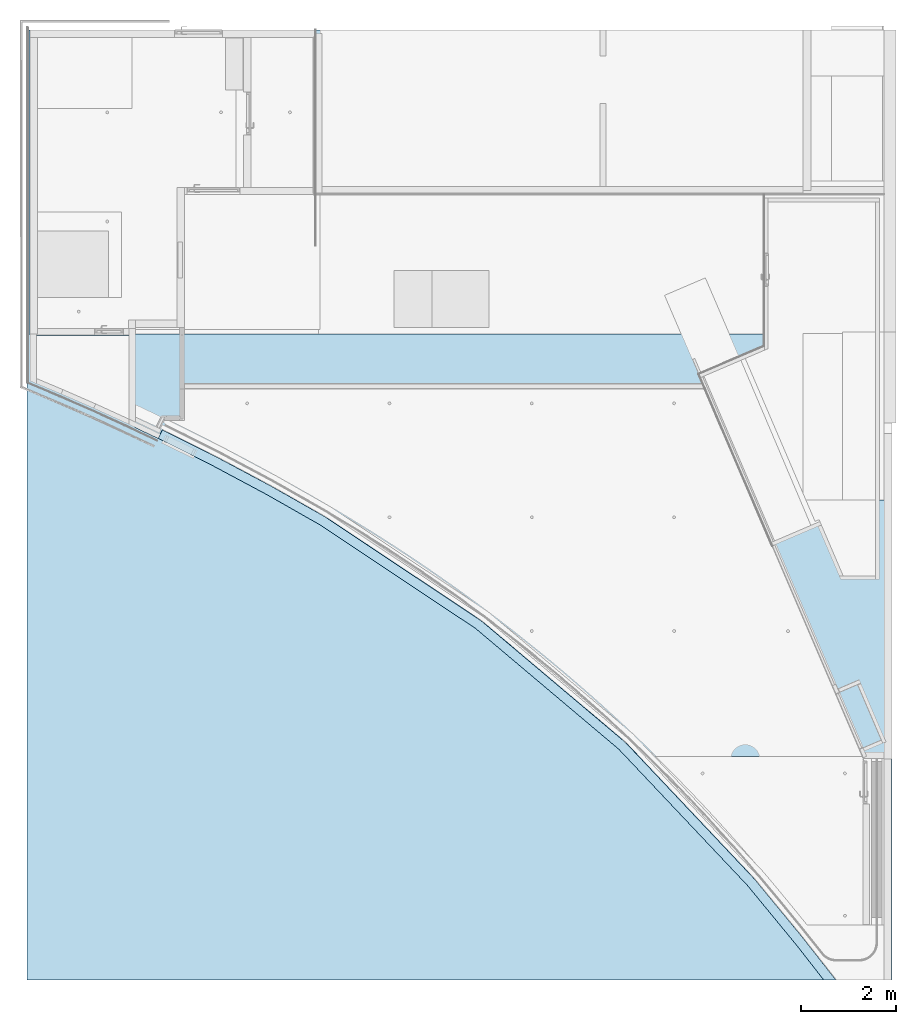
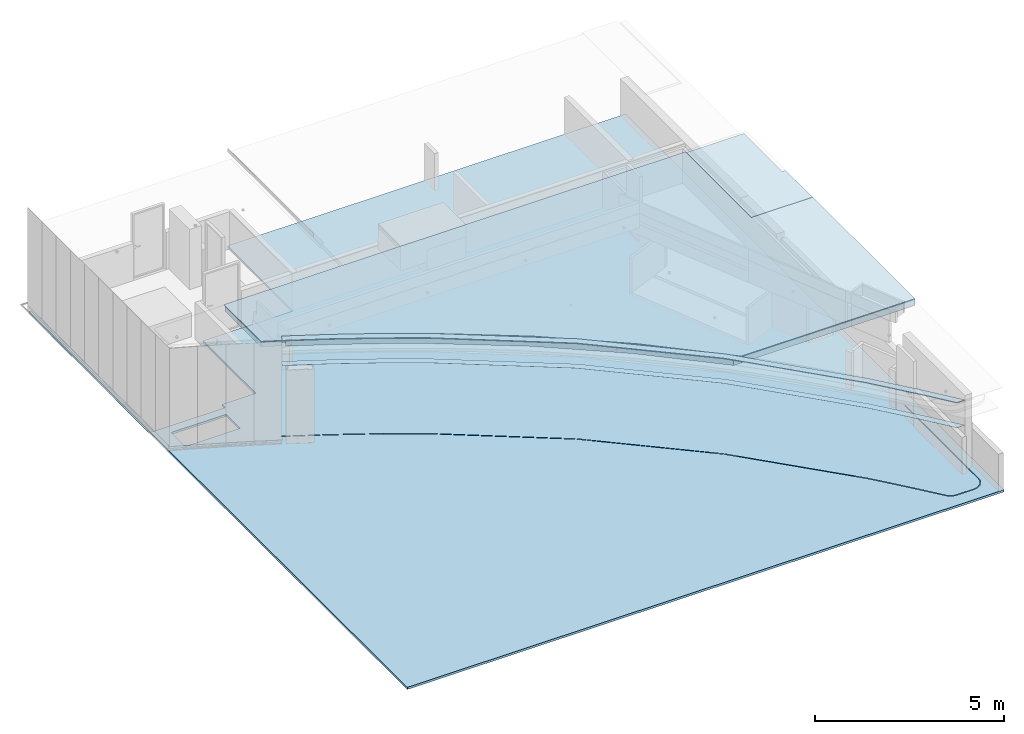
# One storey, part 6 of 16: 6 slabs.
"""IFC2X3 building model written with IfcOpenShell, lengths in millimetres."""

from ifc_helpers import new_model, entity, si_unit, converted_unit, derived_unit, direction, frame, origin_with_axes, place, context, subcontext, project, spatial, faceted_brep, material, layer, layer_set, type_object, element, save


model = new_model("IFC2X3")

# Units and contexts
model_context = context("Model", 3, precision=0.01, world=frame((0.0, 4.29681676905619e-09, 0.0)), true_north=direction((4.01073788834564e-13, 1.0)))
plan_context = context("Plan", 3, precision=0.01, world=frame((0.0, 4.29681676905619e-09, 0.0)), true_north=direction((4.01073788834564e-13, 1.0)))
body_context = subcontext(model_context, "Body", "Model", "MODEL_VIEW")
ifc_project = project(units=[converted_unit("PLANEANGLEUNIT", "DEGREE", entity("IfcPositiveLengthMeasure", 0.0174532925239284), si_unit("PLANEANGLEUNIT", "RADIAN"), dimensions=[0, 0, 0, 0, 0, 0, 0]), si_unit("AREAUNIT", "SQUARE_METRE"), si_unit("LENGTHUNIT", "METRE", prefix="MILLI"), si_unit("MASSUNIT", "GRAM", prefix="KILO"), si_unit("POWERUNIT", "WATT"), si_unit("PRESSUREUNIT", "PASCAL"), si_unit("FORCEUNIT", "NEWTON", prefix="KILO"), si_unit("ELECTRICCURRENTUNIT", "AMPERE"), si_unit("THERMODYNAMICTEMPERATUREUNIT", "DEGREE_CELSIUS"), si_unit("TIMEUNIT", "SECOND"), si_unit("VOLUMEUNIT", "CUBIC_METRE"), derived_unit("LINEARVELOCITYUNIT", [(si_unit("LENGTHUNIT", "METRE"), 1), (si_unit("TIMEUNIT", "SECOND"), -1)]), derived_unit("VOLUMETRICFLOWRATEUNIT", [(si_unit("VOLUMEUNIT", "CUBIC_METRE"), 1), (si_unit("TIMEUNIT", "SECOND"), -1)]), derived_unit("THERMALTRANSMITTANCEUNIT", [(si_unit("POWERUNIT", "WATT"), 1), (si_unit("THERMODYNAMICTEMPERATUREUNIT", "KELVIN"), -1), (si_unit("AREAUNIT", "SQUARE_METRE"), -1)])], contexts=[model_context, plan_context])

# Site, building, storey
site_placement = place(None, origin_with_axes())
site = spatial("IfcSite", under=ifc_project, at=site_placement, Name="ENGM", CompositionType="ELEMENT")
building_placement = place(site_placement, origin_with_axes())
building = spatial("IfcBuilding", under=site, at=building_placement, Name="TS", CompositionType="ELEMENT")
storey_placement = place(building_placement, frame((0.0, 0.0, 204000.0), z_axis=(0.0, 0.0, 1.0), x_axis=(1.0, 0.0, 0.0)))
storey = spatial("IfcBuildingStorey", under=building, at=storey_placement, Name="Nivå D", CompositionType="ELEMENT", Elevation=204000.0)

# Slabs
ifc_material_1 = material(Name="T2_X-finer")
ifc_layer_1 = layer(ifc_material_1, 20.0)
ifc_layer_set_1 = layer_set([ifc_layer_1], Name="Floor:A254 - Kryssfiner - 20 mm")
slab_type_1 = type_object("IfcSlabType", Name="Floor:A254 - Kryssfiner - 20 mm", PredefinedType="FLOOR", material=ifc_layer_set_1)
slab_1_placement = place(storey_placement, frame((516122.0, 405555.0, 3300.0), z_axis=(0.0, 0.0, 1.0), x_axis=(1.0, 0.0, 0.0)))
element("IfcSlab", 1, at=slab_1_placement, inside=storey, type_object=slab_type_1, Name="Floor:A254 - Kryssfiner - 20 mm:3", ObjectType="Floor:A254 - Kryssfiner - 20 mm", PredefinedType="FLOOR", context=body_context, shape_type="Brep", body=[
    faceted_brep([(15973.0000000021, -3.91261251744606e-08, 20.0), (15973.0000000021, -3.91261251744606e-08, 4.54747350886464e-12), (10662.9933633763, -6.39629433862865e-08, 4.54747350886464e-12), (10662.9933633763, -6.39629433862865e-08, 20.0), (8581.66659339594, 1861.79132981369, 4.54747350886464e-12), (8581.66659339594, 1861.79132981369, 20.0), (6358.76814456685, 3552.03112512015, 4.54747350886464e-12), (6358.76814456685, 3552.03112512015, 20.0), (4008.40030245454, 5059.9963389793, 4.54747350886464e-12), (4008.40030245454, 5059.9963389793, 20.0), (2885.4797555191, 5698.98396655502, 4.54747350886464e-12), (2885.4797555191, 5698.98396655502, 20.0), (1746.0120047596, 6307.97410432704, 4.54747350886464e-12), (1746.0120047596, 6307.97410432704, 20.0), (590.798213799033, 6886.53856927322, 4.54747350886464e-12), (590.798213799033, 6886.53856927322, 20.0), (504.938000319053, 6705.89846144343, 4.54747350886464e-12), (504.938000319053, 6705.89846144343, 20.0), (0.0, 6945.90100031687, 4.54747350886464e-12), (0.0, 6945.90100031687, 20.0), (0.0, 8904.0, 4.54747350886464e-12), (0.0, 8904.0, 20.0), (14095.5124998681, 8904.0, 4.54747350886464e-12), (14095.5124998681, 8904.0, 20.0), (14095.5124998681, 5407.0, 4.54747350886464e-12), (14095.5124998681, 5407.0, 20.0), (15973.0000000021, 5407.0, 4.54747350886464e-12), (15973.0000000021, 5407.0, 20.0)], [[[0, 1, 2, 3]], [[3, 2, 4, 5]], [[5, 4, 6, 7]], [[7, 6, 8, 9]], [[9, 8, 10, 11]], [[11, 10, 12, 13]], [[13, 12, 14, 15]], [[15, 14, 16, 17]], [[17, 16, 18, 19]], [[19, 18, 20, 21]], [[21, 20, 22, 23]], [[23, 22, 24, 25]], [[26, 27, 25, 24]], [[27, 0, 3, 5, 7, 9, 11, 13, 15, 17, 19, 21, 23, 25]], [[1, 26, 24, 22, 20, 18, 16, 14, 12, 10, 8, 6, 4, 2]], [[27, 26, 1, 0]]], orient=[[False], [False], [False], [False], [False], [False], [False], [False], [False], [False], [False], [False], [False], [False], [False], [False]]),
])
ifc_material_2 = material(Name="T2 Steel")
ifc_layer_2 = layer(ifc_material_2, 5.0)
ifc_layer_set_2 = layer_set([ifc_layer_2], Name="Floor:A251 - stålplate - 5mm")
slab_type_2 = type_object("IfcSlabType", Name="Floor:A251 - stålplate - 5mm", PredefinedType="FLOOR", material=ifc_layer_set_2)
slab_2_placement = place(storey_placement, origin_with_axes())
element("IfcSlab", 2, at=slab_2_placement, inside=storey, type_object=slab_type_2, Name="Floor:A251 - stålplate - 5mm", ObjectType="Floor:A251 - stålplate - 5mm", PredefinedType="FLOOR", context=body_context, shape_type="Brep", body=[
    faceted_brep([(526471.996027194, 405854.543022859, 3320.0), (526471.996027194, 405854.543022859, 3314.99999999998), (529198.79393839, 402967.573781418, 3314.99999999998), (529198.79393839, 402967.573781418, 3320.0), (530186.263705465, 401767.581163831, 3314.99999999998), (530186.263705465, 401767.581163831, 3320.0), (530909.502638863, 400845.676658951, 3314.99999999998), (530909.502638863, 400845.676658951, 3320.0), (530654.256486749, 400845.676658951, 3320.0), (530654.256486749, 400845.676658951, 3314.99999999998), (530083.128808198, 401576.547925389, 3314.99999999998), (530083.128808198, 401576.547925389, 3320.0), (529045.852574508, 402838.698107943, 3314.99999999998), (529045.852574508, 402838.698107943, 3320.0), (526334.60970096, 405709.19861339, 3314.99999999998), (526334.60970096, 405709.19861339, 3320.0), (523316.146977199, 408254.683607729, 3314.99999999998), (523316.146977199, 408254.683607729, 3320.0), (520029.189647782, 410442.495894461, 3314.99999999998), (520029.189647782, 410442.495894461, 3320.0), (518911.436792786, 411078.552618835, 3314.99999999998), (518911.436792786, 411078.552618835, 3320.0), (517777.220594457, 411684.764806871, 3314.99999999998), (517777.220594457, 411684.764806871, 3320.0), (516627.337735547, 412260.706650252, 3314.99999999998), (516627.337735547, 412260.706650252, 3320.0), (516714.709691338, 412440.612687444, 3320.0), (516714.709691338, 412440.612687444, 3314.99999999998), (517869.269512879, 411862.323289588, 3314.99999999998), (517869.269512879, 411862.323289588, 3320.0), (519008.099661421, 411253.642008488, 3314.99999999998), (519008.099661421, 411253.642008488, 3320.0), (520130.400301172, 410614.996339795, 3314.99999999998), (520130.400301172, 410614.996339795, 3320.0), (523436.215674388, 408414.632061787, 3314.99999999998), (523436.215674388, 408414.632061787, 3320.0)], [[[0, 1, 2, 3]], [[3, 2, 4, 5]], [[6, 7, 5, 4]], [[8, 9, 10, 11]], [[11, 10, 12, 13]], [[13, 12, 14, 15]], [[15, 14, 16, 17]], [[17, 16, 18, 19]], [[19, 18, 20, 21]], [[21, 20, 22, 23]], [[23, 22, 24, 25]], [[26, 27, 28, 29]], [[29, 28, 30, 31]], [[31, 30, 32, 33]], [[33, 32, 34, 35]], [[35, 34, 1, 0]], [[25, 24, 27, 26]], [[7, 8, 11, 13, 15, 17, 19, 21, 23, 25, 26, 29, 31, 33, 35, 0, 3, 5]], [[9, 6, 4, 2, 1, 34, 32, 30, 28, 27, 24, 22, 20, 18, 16, 14, 12, 10]], [[9, 8, 7, 6]]], orient=[[False], [False], [False], [False], [False], [False], [False], [False], [False], [False], [False], [False], [False], [False], [False], [False], [False], [False], [False], [False]]),
])
ifc_layer_3 = layer(ifc_material_1, 15.0)
ifc_layer_set_3 = layer_set([ifc_layer_3], Name="Floor:A254 - Kryssfiner - 15 mm")
slab_type_3 = type_object("IfcSlabType", Name="Floor:A254 - Kryssfiner - 15 mm", PredefinedType="FLOOR", material=ifc_layer_set_3)
slab_3_placement = place(storey_placement, origin_with_axes())
element("IfcSlab", 3, at=slab_3_placement, inside=storey, type_object=slab_type_3, Name="Floor:A254 - Kryssfiner - 15 mm", ObjectType="Floor:A254 - Kryssfiner - 15 mm", PredefinedType="FLOOR", context=body_context, shape_type="Brep", body=[
    faceted_brep([(526471.996027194, 405854.543022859, 3315.0), (526471.996027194, 405854.543022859, 3299.99999999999), (529198.79393839, 402967.573781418, 3299.99999999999), (529198.79393839, 402967.573781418, 3315.0), (530186.263705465, 401767.581163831, 3299.99999999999), (530186.263705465, 401767.581163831, 3315.0), (530909.502638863, 400845.676658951, 3299.99999999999), (530909.502638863, 400845.676658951, 3315.0), (530654.256486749, 400845.676658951, 3315.0), (530654.256486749, 400845.676658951, 3299.99999999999), (530083.128808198, 401576.547925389, 3299.99999999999), (530083.128808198, 401576.547925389, 3315.0), (529045.852574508, 402838.698107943, 3299.99999999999), (529045.852574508, 402838.698107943, 3315.0), (526334.60970096, 405709.19861339, 3299.99999999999), (526334.60970096, 405709.19861339, 3315.0), (523316.146977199, 408254.683607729, 3299.99999999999), (523316.146977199, 408254.683607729, 3315.0), (520029.189647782, 410442.495894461, 3299.99999999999), (520029.189647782, 410442.495894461, 3315.0), (518911.436792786, 411078.552618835, 3299.99999999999), (518911.436792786, 411078.552618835, 3315.0), (517777.220594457, 411684.764806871, 3299.99999999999), (517777.220594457, 411684.764806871, 3315.0), (516627.337735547, 412260.706650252, 3299.99999999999), (516627.337735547, 412260.706650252, 3315.0), (516714.709691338, 412440.612687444, 3315.0), (516714.709691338, 412440.612687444, 3299.99999999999), (517869.269512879, 411862.323289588, 3299.99999999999), (517869.269512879, 411862.323289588, 3315.0), (519008.099661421, 411253.642008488, 3299.99999999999), (519008.099661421, 411253.642008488, 3315.0), (520130.400301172, 410614.996339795, 3299.99999999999), (520130.400301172, 410614.996339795, 3315.0), (523436.215674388, 408414.632061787, 3299.99999999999), (523436.215674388, 408414.632061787, 3315.0)], [[[0, 1, 2, 3]], [[3, 2, 4, 5]], [[6, 7, 5, 4]], [[8, 9, 10, 11]], [[11, 10, 12, 13]], [[13, 12, 14, 15]], [[15, 14, 16, 17]], [[17, 16, 18, 19]], [[19, 18, 20, 21]], [[21, 20, 22, 23]], [[23, 22, 24, 25]], [[26, 27, 28, 29]], [[29, 28, 30, 31]], [[31, 30, 32, 33]], [[33, 32, 34, 35]], [[35, 34, 1, 0]], [[25, 24, 27, 26]], [[7, 8, 11, 13, 15, 17, 19, 21, 23, 25, 26, 29, 31, 33, 35, 0, 3, 5]], [[9, 6, 4, 2, 1, 34, 32, 30, 28, 27, 24, 22, 20, 18, 16, 14, 12, 10]], [[9, 8, 7, 6]]], orient=[[False], [False], [False], [False], [False], [False], [False], [False], [False], [False], [False], [False], [False], [False], [False], [False], [False], [False], [False], [False]]),
])
ifc_material_3 = material(Name="_NSW Gulv (Generell)")
ifc_layer_4 = layer(ifc_material_3, 70.0)
ifc_layer_set_4 = layer_set([ifc_layer_4], Name="Floor:A254 - Gulvoppbygging m_f.o - 70 mm")
slab_type_4 = type_object("IfcSlabType", Name="Floor:A254 - Gulvoppbygging m_f.o - 70 mm", PredefinedType="FLOOR", material=ifc_layer_set_4)
slab_4_placement = place(storey_placement, frame((509141.688462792, 374057.35305054, -70.0), z_axis=(0.0, 0.0, 1.0), x_axis=(1.0, 0.0, 0.0)))
element("IfcSlab", 4, at=slab_4_placement, inside=storey, type_object=slab_type_4, Name="Floor:A254 - Gulvoppbygging m_f.o - 70 mm", ObjectType="Floor:A254 - Gulvoppbygging m_f.o - 70 mm", PredefinedType="FLOOR", context=body_context, shape_type="Brep", body=[
    faceted_brep([(10783.3115372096, 46812.8384028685, 70.0), (22953.3115372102, 46812.838402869, 69.9999999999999), (22953.3115372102, 26788.3236084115, 69.9999999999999), (4720.81153720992, 26788.3236084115, 69.9999999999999), (4720.81153720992, 46812.838402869, 69.9999999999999), (4780.81153720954, 46812.8384028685, 70.0), (4780.81153720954, 40380.1469494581, 70.0), (7007.8115372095, 40380.1469494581, 70.0), (7007.8115372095, 40545.1469494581, 70.0), (8035.81153720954, 40545.1469494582, 70.0), (8035.81153720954, 43340.1469495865, 70.0), (10783.3115372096, 43340.1469495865, 70.0), (5188.11062016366, 39352.8823383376, 70.0), (6868.11062016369, 39352.8823383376, 70.0), (6868.11062016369, 40092.8823383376, 70.0), (5188.11062016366, 40092.8823383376, 70.0), (21769.3115372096, 27216.3969494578, 70.0), (21708.8368175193, 27221.4911999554, 70.0), (21650.0665148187, 27236.6303753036, 70.0), (21594.6570088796, 27261.3877936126, 70.0), (21544.1699589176, 27295.0656928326, 70.0), (21500.0282898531, 27336.7148964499, 70.0), (21419.0195005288, 27438.923499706, 70.0), (20982.5143053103, 27983.7831038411, 70.0), (20540.3341810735, 28524.0474015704, 70.0), (20092.5275015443, 29059.6572889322, 70.0), (17370.8015047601, 31928.7817000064, 70.0), (14344.2828802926, 34474.3371017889, 70.0), (11051.2094178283, 36664.1623136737, 70.0), (9925.54589383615, 37304.7126051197, 70.0), (8783.29617136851, 37915.1948871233, 70.0), (7625.26322390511, 38495.1800056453, 70.0), (7616.90043053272, 38478.1191833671, 70.0), (8774.5104351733, 37898.3480956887, 70.0), (9916.34266589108, 37288.0902863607, 70.0), (11041.594405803, 36647.7747713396, 70.0), (14332.8864086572, 34459.1344556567, 70.0), (17357.7680832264, 31914.9567231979, 70.0), (20078.022396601, 29047.3852855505, 70.0), (20525.6990327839, 28511.9307809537, 70.0), (20967.7507774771, 27971.8232434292, 70.0), (21404.1292715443, 27427.1217591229, 70.0), (21485.4888556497, 27324.4705588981, 70.0), (21531.9743131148, 27280.4893300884, 70.0), (21585.1730783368, 27244.9205569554, 70.0), (21643.5803739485, 27218.7703358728, 70.0), (21705.5440943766, 27202.778350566, 70.0), (21769.3115372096, 27197.3969494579, 70.0), (22257.3115372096, 27197.3969494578, 70.0), (22316.8348511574, 27202.0815358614, 70.0), (22374.8925035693, 27216.0199450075, 70.0), (22430.0549223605, 27238.8689670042, 70.0), (22480.9638257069, 27270.0659830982, 70.0), (22526.3656674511, 27308.8428192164, 70.0), (22565.1425035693, 27354.2446609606, 70.0), (22596.3395196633, 27405.1535643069, 70.0), (22619.1885416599, 27460.3159830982, 70.0), (22633.126950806, 27518.37363551, 70.0), (22637.8115372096, 27577.8969494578, 70.0), (22637.8115372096, 31453.8969494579, 70.0), (22618.8115372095, 31453.8969494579, 70.0), (22618.8115372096, 27577.8969494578, 70.0), (22614.3608723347, 27521.3458903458, 70.0), (22601.1184678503, 27466.1873059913, 70.0), (22579.4103957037, 27413.779383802, 70.0), (22549.7711806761, 27365.4125807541, 70.0), (22512.9306386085, 27322.2778480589, 70.0), (22469.7959059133, 27285.4373059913, 70.0), (22421.4291028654, 27255.7980909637, 70.0), (22369.0211806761, 27234.0900188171, 70.0), (22313.8625963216, 27220.8476143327, 70.0), (22257.3115372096, 27216.3969494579, 70.0), (4780.81153720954, 46812.8384028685, 1.59161572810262e-11), (4720.81153720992, 46812.838402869, 1.60298441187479e-11), (4720.81153720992, 26788.3236084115, 1.60298441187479e-11), (22953.3115372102, 26788.3236084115, 1.59161572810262e-11), (22953.3115372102, 46812.838402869, 1.60298441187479e-11), (10783.3115372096, 46812.8384028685, 1.59161572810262e-11), (10783.3115372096, 43340.1469495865, 1.59161572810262e-11), (8035.81153720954, 43340.1469495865, 1.59161572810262e-11), (8035.81153720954, 40545.1469494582, 1.59161572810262e-11), (7007.8115372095, 40545.1469494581, 1.59161572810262e-11), (7007.8115372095, 40380.1469494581, 1.59161572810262e-11), (4780.81153720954, 40380.1469494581, 1.59161572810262e-11), (6868.11062016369, 39352.8823383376, 1.59161572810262e-11), (5188.11062016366, 39352.8823383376, 1.59161572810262e-11), (5188.11062016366, 40092.8823383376, 1.59161572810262e-11), (6868.11062016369, 40092.8823383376, 1.59161572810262e-11), (22369.0211806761, 27234.0900188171, 1.59161572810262e-11), (22421.4291028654, 27255.7980909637, 1.59161572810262e-11), (22469.7959059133, 27285.4373059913, 1.59161572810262e-11), (22512.9306386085, 27322.2778480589, 1.59161572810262e-11), (22549.7711806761, 27365.4125807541, 1.59161572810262e-11), (22579.4103957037, 27413.779383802, 1.59161572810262e-11), (22601.1184678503, 27466.1873059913, 1.59161572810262e-11), (22614.3608723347, 27521.3458903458, 1.59161572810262e-11), (22618.8115372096, 27577.8969494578, 1.59161572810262e-11), (22618.8115372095, 31453.8969494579, 1.59161572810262e-11), (22637.8115372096, 31453.8969494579, 1.59161572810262e-11), (22637.8115372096, 27577.8969494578, 1.59161572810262e-11), (22633.126950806, 27518.37363551, 1.59161572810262e-11), (22619.1885416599, 27460.3159830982, 1.59161572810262e-11), (22596.3395196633, 27405.1535643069, 1.59161572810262e-11), (22565.1425035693, 27354.2446609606, 1.59161572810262e-11), (22526.3656674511, 27308.8428192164, 1.59161572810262e-11), (22480.9638257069, 27270.0659830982, 1.59161572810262e-11), (22430.0549223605, 27238.8689670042, 1.59161572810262e-11), (22374.8925035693, 27216.0199450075, 1.59161572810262e-11), (22316.8348511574, 27202.0815358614, 1.59161572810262e-11), (22257.3115372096, 27197.3969494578, 1.59161572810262e-11), (21769.3115372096, 27197.3969494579, 1.59161572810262e-11), (21705.5440943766, 27202.778350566, 1.59161572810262e-11), (21643.5803739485, 27218.7703358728, 1.59161572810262e-11), (21585.1730783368, 27244.9205569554, 1.59161572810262e-11), (21531.9743131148, 27280.4893300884, 1.59161572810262e-11), (21485.4888556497, 27324.4705588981, 1.59161572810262e-11), (21404.1292715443, 27427.1217591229, 1.59161572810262e-11), (20967.7507774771, 27971.8232434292, 1.59161572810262e-11), (20525.6990327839, 28511.9307809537, 1.59161572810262e-11), (20078.022396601, 29047.3852855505, 1.59161572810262e-11), (17357.7680832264, 31914.9567231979, 1.59161572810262e-11), (14332.8864086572, 34459.1344556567, 1.59161572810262e-11), (11041.594405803, 36647.7747713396, 1.59161572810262e-11), (9916.34266589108, 37288.0902863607, 1.59161572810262e-11), (8774.5104351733, 37898.3480956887, 1.59161572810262e-11), (7616.90043053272, 38478.1191833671, 1.59161572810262e-11), (7625.26322390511, 38495.1800056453, 1.59161572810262e-11), (8783.29617136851, 37915.1948871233, 1.59161572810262e-11), (9925.54589383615, 37304.7126051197, 1.59161572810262e-11), (11051.2094178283, 36664.1623136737, 1.59161572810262e-11), (14344.2828802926, 34474.3371017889, 1.59161572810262e-11), (17370.8015047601, 31928.7817000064, 1.59161572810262e-11), (20092.5275015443, 29059.6572889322, 1.59161572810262e-11), (20540.3341810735, 28524.0474015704, 1.59161572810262e-11), (20982.5143053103, 27983.7831038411, 1.59161572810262e-11), (21419.0195005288, 27438.923499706, 1.59161572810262e-11), (21500.0282898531, 27336.7148964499, 1.59161572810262e-11), (21544.1699589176, 27295.0656928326, 1.59161572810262e-11), (21594.6570088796, 27261.3877936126, 1.59161572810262e-11), (21650.0665148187, 27236.6303753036, 1.59161572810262e-11), (21708.8368175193, 27221.4911999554, 1.59161572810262e-11), (21769.3115372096, 27216.3969494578, 1.59161572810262e-11), (22257.3115372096, 27216.3969494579, 1.59161572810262e-11), (22313.8625963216, 27220.8476143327, 1.59161572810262e-11)], [[[0, 1, 2, 3, 4, 5, 6, 7, 8, 9, 10, 11], [12, 13, 14, 15], [16, 17, 18, 19, 20, 21, 22, 23, 24, 25, 26, 27, 28, 29, 30, 31, 32, 33, 34, 35, 36, 37, 38, 39, 40, 41, 42, 43, 44, 45, 46, 47, 48, 49, 50, 51, 52, 53, 54, 55, 56, 57, 58, 59, 60, 61, 62, 63, 64, 65, 66, 67, 68, 69, 70, 71]], [[72, 73, 74, 75, 76, 77, 78, 79, 80, 81, 82, 83], [84, 85, 86, 87], [88, 89, 90, 91, 92, 93, 94, 95, 96, 97, 98, 99, 100, 101, 102, 103, 104, 105, 106, 107, 108, 109, 110, 111, 112, 113, 114, 115, 116, 117, 118, 119, 120, 121, 122, 123, 124, 125, 126, 127, 128, 129, 130, 131, 132, 133, 134, 135, 136, 137, 138, 139, 140, 141, 142, 143]], [[14, 87, 86, 15]], [[13, 84, 87, 14]], [[12, 85, 84, 13]], [[15, 86, 85, 12]], [[70, 143, 142, 71]], [[69, 88, 143, 70]], [[68, 89, 88, 69]], [[67, 90, 89, 68]], [[66, 91, 90, 67]], [[65, 92, 91, 66]], [[64, 93, 92, 65]], [[63, 94, 93, 64]], [[62, 95, 94, 63]], [[61, 96, 95, 62]], [[60, 97, 96, 61]], [[59, 98, 97, 60]], [[58, 99, 98, 59]], [[57, 100, 99, 58]], [[56, 101, 100, 57]], [[55, 102, 101, 56]], [[54, 103, 102, 55]], [[24, 133, 132, 25]], [[23, 134, 133, 24]], [[22, 135, 134, 23]], [[21, 136, 135, 22]], [[20, 137, 136, 21]], [[19, 138, 137, 20]], [[18, 139, 138, 19]], [[17, 140, 139, 18]], [[16, 141, 140, 17]], [[71, 142, 141, 16]], [[53, 104, 103, 54]], [[52, 105, 104, 53]], [[51, 106, 105, 52]], [[50, 107, 106, 51]], [[49, 108, 107, 50]], [[48, 109, 108, 49]], [[47, 110, 109, 48]], [[46, 111, 110, 47]], [[45, 112, 111, 46]], [[44, 113, 112, 45]], [[43, 114, 113, 44]], [[42, 115, 114, 43]], [[41, 116, 115, 42]], [[40, 117, 116, 41]], [[39, 118, 117, 40]], [[38, 119, 118, 39]], [[37, 120, 119, 38]], [[36, 121, 120, 37]], [[35, 122, 121, 36]], [[34, 123, 122, 35]], [[33, 124, 123, 34]], [[32, 125, 124, 33]], [[31, 126, 125, 32]], [[30, 127, 126, 31]], [[29, 128, 127, 30]], [[28, 129, 128, 29]], [[27, 130, 129, 28]], [[26, 131, 130, 27]], [[25, 132, 131, 26]], [[10, 79, 78, 11]], [[9, 80, 79, 10]], [[8, 81, 80, 9]], [[7, 82, 81, 8]], [[6, 83, 82, 7]], [[5, 72, 83, 6]], [[11, 78, 77, 0]], [[2, 1, 76, 75]], [[73, 72, 5, 4]], [[1, 0, 77, 76]], [[4, 3, 74, 73]], [[3, 2, 75, 74]]], orient=[[False, False, False], [False, False, False], [False], [False], [False], [False], [False], [False], [False], [False], [False], [False], [False], [False], [False], [False], [False], [False], [False], [False], [False], [False], [False], [False], [False], [False], [False], [False], [False], [False], [False], [False], [False], [False], [False], [False], [False], [False], [False], [False], [False], [False], [False], [False], [False], [False], [False], [False], [False], [False], [False], [False], [False], [False], [False], [False], [False], [False], [False], [False], [False], [False], [False], [False], [False], [False], [False], [False], [False], [False], [False], [False], [False], [False]]),
])
ifc_material_4 = material(Name="_NSW Generell Gulv (Floor)")
ifc_layer_5 = layer(ifc_material_4, 200.0)
ifc_layer_set_5 = layer_set([ifc_layer_5], Name="Floor:B251 - TRP 200 mm")
slab_type_5 = type_object("IfcSlabType", Name="Floor:B251 - TRP 200 mm", PredefinedType="FLOOR", material=ifc_layer_set_5)
slab_5_placement = place(storey_placement, origin_with_axes())
element("IfcSlab", 5, at=slab_5_placement, inside=storey, type_object=slab_type_5, Name="Floor:B251 - TRP 200 mm", ObjectType="Floor:B251 - TRP 200 mm", PredefinedType="FLOOR", context=body_context, shape_type="Brep", body=[
    faceted_brep([(516320.445609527, 412473.130250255, 3300.0), (516320.445609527, 412473.130250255, 3100.00000000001), (516149.500000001, 412553.810753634, 3100.00000000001), (516149.500000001, 412553.810753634, 3300.0), (516661.388266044, 412309.776211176, 3300.0), (516661.388266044, 412309.776211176, 3100.00000000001), (516491.075892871, 412391.784992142, 3100.00000000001), (516491.075892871, 412391.784992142, 3300.0), (516149.500000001, 414444.999999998, 3100.00000000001), (516149.500000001, 414444.999999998, 3300.0), (532000.01249987, 414444.999999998, 3100.00000000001), (532000.01249987, 414444.999999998, 3300.0), (532000.01249987, 412419.500000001, 3100.00000000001), (532000.01249987, 412419.500000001, 3300.0), (532095.000000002, 412419.500000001, 3100.00000000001), (532095.000000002, 412419.500000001, 3300.0), (532095.000000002, 405554.917922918, 3300.0), (532095.000000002, 405554.917922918, 3100.00000000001), (526553.281978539, 405554.91792308, 3100.00000000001), (526553.281978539, 405554.91792308, 3300.0), (524516.072574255, 407363.479695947, 3100.00000000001), (524516.072574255, 407363.479695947, 3300.0), (522343.859484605, 409007.440807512, 3100.00000000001), (522343.859484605, 409007.440807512, 3300.0), (520049.908009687, 410476.761894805, 3100.00000000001), (520049.908009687, 410476.761894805, 3300.0), (518960.369367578, 411097.252034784, 3100.00000000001), (518960.369367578, 411097.252034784, 3300.0), (517855.175568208, 411689.408375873, 3100.00000000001), (517855.175568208, 411689.408375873, 3300.0), (516735.063278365, 412252.836216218, 3100.00000000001), (516735.063278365, 412252.836216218, 3300.0), (516799.757878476, 412401.38738379, 3100.00000000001), (516799.757878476, 412401.38738379, 3300.0), (516716.984394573, 412437.435551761, 3100.00000000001), (516716.984394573, 412437.435551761, 3300.0)], [[[0, 1, 2, 3]], [[4, 5, 6, 7]], [[7, 6, 1, 0]], [[3, 2, 8, 9]], [[9, 8, 10, 11]], [[11, 10, 12, 13]], [[14, 15, 13, 12]], [[16, 17, 18, 19]], [[19, 18, 20, 21]], [[21, 20, 22, 23]], [[23, 22, 24, 25]], [[25, 24, 26, 27]], [[27, 26, 28, 29]], [[29, 28, 30, 31]], [[31, 30, 32, 33]], [[33, 32, 34, 35]], [[35, 34, 5, 4]], [[15, 16, 19, 21, 23, 25, 27, 29, 31, 33, 35, 4, 7, 0, 3, 9, 11, 13]], [[17, 14, 12, 10, 8, 2, 1, 6, 5, 34, 32, 30, 28, 26, 24, 22, 20, 18]], [[17, 16, 15, 14]]], orient=[[False], [False], [False], [False], [False], [False], [False], [False], [False], [False], [False], [False], [False], [False], [False], [False], [False], [False], [False], [False]]),
])
ifc_material_5 = material(Name="_NSW Stål")
ifc_layer_6 = layer(ifc_material_5, 5.0)
ifc_layer_set_6 = layer_set([ifc_layer_6], Name="Floor:A250 - Metalplate 5mm")
slab_type_6 = type_object("IfcSlabType", Name="Floor:A250 - Metalplate 5mm", PredefinedType="FLOOR", material=ifc_layer_set_6)
slab_6_placement = place(storey_placement, origin_with_axes())
element("IfcSlab", 6, at=slab_6_placement, inside=storey, type_object=slab_type_6, Name="Floor:A250 - Metalplate 5mm", ObjectType="Floor:A250 - Metalplate 5mm", PredefinedType="FLOOR", context=body_context, shape_type="Brep", body=[
    faceted_brep([(516711.275389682, 412442.276121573, 2505.0), (516711.275389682, 412442.276121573, 2499.99999999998), (517867.010185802, 411863.492555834, 2499.99999999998), (517867.010185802, 411863.492555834, 2505.0), (519006.985897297, 411254.256384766, 2499.99999999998), (519006.985897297, 411254.256384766, 2505.0), (520130.400302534, 410614.99633899, 2499.99999999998), (520130.400302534, 410614.99633899, 2505.0), (523436.215675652, 408414.632060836, 2499.99999999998), (523436.215675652, 408414.632060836, 2505.0), (526471.996028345, 405854.543021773, 2499.99999999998), (526471.996028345, 405854.543021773, 2505.0), (529198.793939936, 402967.573779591, 2499.99999999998), (529198.793939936, 402967.573779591, 2505.0), (530186.826885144, 401766.880264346, 2499.99999999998), (530186.826885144, 401766.880264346, 2505.0), (530909.485834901, 400845.676658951, 2499.99999999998), (530909.485834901, 400845.676658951, 2505.0), (530654.167359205, 400845.676658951, 2505.0), (530654.167359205, 400845.676658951, 2499.99999999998), (530088.281221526, 401570.118117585, 2499.99999999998), (530088.281221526, 401570.118117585, 2505.0), (529045.852575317, 402838.698106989, 2499.99999999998), (529045.852575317, 402838.698106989, 2505.0), (526334.60970187, 405709.198612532, 2499.99999999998), (526334.60970187, 405709.198612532, 2505.0), (523316.146978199, 408254.683606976, 2499.99999999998), (523316.146978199, 408254.683606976, 2505.0), (520029.189649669, 410442.495893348, 2499.99999999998), (520029.189649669, 410442.495893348, 2505.0), (518910.815268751, 411078.895468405, 2499.99999999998), (518910.815268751, 411078.895468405, 2505.0), (517775.959804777, 411685.417315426, 2499.99999999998), (517775.959804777, 411685.417315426, 2505.0), (516625.421267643, 412261.634939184, 2499.99999999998), (516625.421267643, 412261.634939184, 2505.0)], [[[0, 1, 2, 3]], [[3, 2, 4, 5]], [[5, 4, 6, 7]], [[7, 6, 8, 9]], [[9, 8, 10, 11]], [[11, 10, 12, 13]], [[13, 12, 14, 15]], [[16, 17, 15, 14]], [[18, 19, 20, 21]], [[21, 20, 22, 23]], [[23, 22, 24, 25]], [[25, 24, 26, 27]], [[27, 26, 28, 29]], [[29, 28, 30, 31]], [[31, 30, 32, 33]], [[33, 32, 34, 35]], [[35, 34, 1, 0]], [[17, 18, 21, 23, 25, 27, 29, 31, 33, 35, 0, 3, 5, 7, 9, 11, 13, 15]], [[19, 16, 14, 12, 10, 8, 6, 4, 2, 1, 34, 32, 30, 28, 26, 24, 22, 20]], [[19, 18, 17, 16]]], orient=[[False], [False], [False], [False], [False], [False], [False], [False], [False], [False], [False], [False], [False], [False], [False], [False], [False], [False], [False], [False]]),
])

save(model, "model.ifc")
